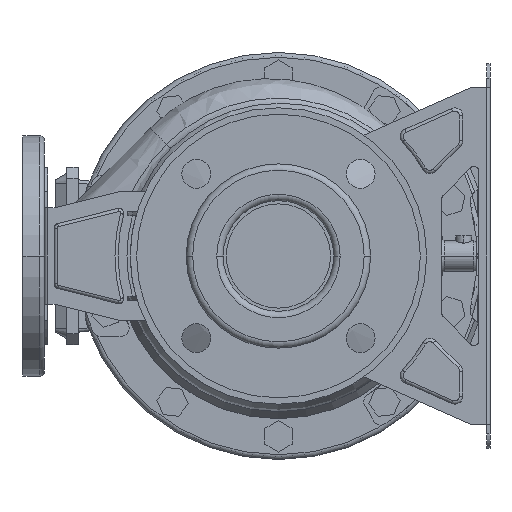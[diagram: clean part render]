
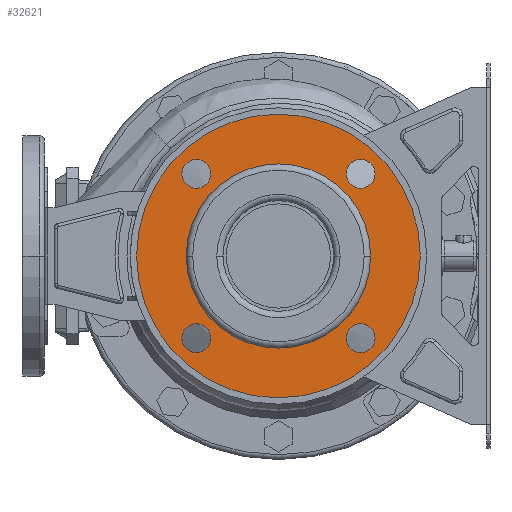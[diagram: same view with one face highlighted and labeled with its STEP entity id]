
A CAD part, front view. The second image highlights one B-rep face of the part: STEP entity #32621.
In plain terms, the highlighted planar face has unit normal (0, -1, 0) as drawn and (-1, 0, 0) by its records, which use the part's own axes.
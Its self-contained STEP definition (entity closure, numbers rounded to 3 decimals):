
#31954=CARTESIAN_POINT('',(12.,0.,0.));
#31955=DIRECTION('',(-1.,0.,0.));
#31956=DIRECTION('',(0.,1.,0.));
#31957=AXIS2_PLACEMENT_3D('',#31954,#31955,#31956);
#31962=CARTESIAN_POINT('',(12.,0.,0.));
#31963=DIRECTION('',(1.,0.,0.));
#31964=DIRECTION('',(0.,1.,0.));
#31965=AXIS2_PLACEMENT_3D('',#31962,#31963,#31964);
#31970=CARTESIAN_POINT('',(12.,-51.265,51.265));
#31971=DIRECTION('',(1.,0.,0.));
#31972=DIRECTION('',(0.,1.,0.));
#31973=AXIS2_PLACEMENT_3D('',#31970,#31971,#31972);
#31978=CARTESIAN_POINT('',(12.,-51.265,51.265));
#31979=DIRECTION('',(1.,0.,0.));
#31980=DIRECTION('',(0.,-1.,0.));
#31981=AXIS2_PLACEMENT_3D('',#31978,#31979,#31980);
#31986=CARTESIAN_POINT('',(12.,-51.265,-51.265));
#31987=DIRECTION('',(1.,0.,0.));
#31988=DIRECTION('',(0.,0.,1.));
#31989=AXIS2_PLACEMENT_3D('',#31986,#31987,#31988);
#31994=CARTESIAN_POINT('',(12.,-51.265,-51.265));
#31995=DIRECTION('',(1.,0.,0.));
#31996=DIRECTION('',(0.,0.,-1.));
#31997=AXIS2_PLACEMENT_3D('',#31994,#31995,#31996);
#32002=CARTESIAN_POINT('',(12.,51.265,-51.265));
#32003=DIRECTION('',(1.,0.,0.));
#32004=DIRECTION('',(0.,-1.,0.));
#32005=AXIS2_PLACEMENT_3D('',#32002,#32003,#32004);
#32010=CARTESIAN_POINT('',(12.,51.265,-51.265));
#32011=DIRECTION('',(1.,0.,0.));
#32012=DIRECTION('',(0.,1.,0.));
#32013=AXIS2_PLACEMENT_3D('',#32010,#32011,#32012);
#32018=CARTESIAN_POINT('',(12.,51.265,51.265));
#32019=DIRECTION('',(1.,0.,0.));
#32020=DIRECTION('',(0.,0.,-1.));
#32021=AXIS2_PLACEMENT_3D('',#32018,#32019,#32020);
#32026=CARTESIAN_POINT('',(12.,51.265,51.265));
#32027=DIRECTION('',(1.,0.,0.));
#32028=DIRECTION('',(0.,0.,1.));
#32029=AXIS2_PLACEMENT_3D('',#32026,#32027,#32028);
#32034=CARTESIAN_POINT('',(12.,0.,0.));
#32035=DIRECTION('',(1.,0.,0.));
#32036=DIRECTION('',(0.,1.,0.));
#32037=AXIS2_PLACEMENT_3D('',#32034,#32035,#32036);
#32056=CARTESIAN_POINT('',(12.,0.,0.));
#32057=DIRECTION('',(-1.,0.,0.));
#32058=DIRECTION('',(0.,1.,0.));
#32059=AXIS2_PLACEMENT_3D('',#32056,#32057,#32058);
#32221=CARTESIAN_POINT('',(12.,88.5,0.));
#32223=VERTEX_POINT('',#32221);
#32224=CARTESIAN_POINT('',(12.,57.5,0.));
#32226=VERTEX_POINT('',#32224);
#32253=CARTESIAN_POINT('',(12.,-88.5,0.));
#32255=VERTEX_POINT('',#32253);
#32256=CARTESIAN_POINT('',(12.,-57.5,0.));
#32258=VERTEX_POINT('',#32256);
#32268=CARTESIAN_POINT('',(12.,-42.265,51.265));
#32269=CARTESIAN_POINT('',(12.,-60.265,51.265));
#32270=VERTEX_POINT('',#32268);
#32271=VERTEX_POINT('',#32269);
#32276=CARTESIAN_POINT('',(12.,-51.265,-42.265));
#32277=CARTESIAN_POINT('',(12.,-51.265,-60.265));
#32278=VERTEX_POINT('',#32276);
#32279=VERTEX_POINT('',#32277);
#32284=CARTESIAN_POINT('',(12.,42.265,-51.265));
#32285=CARTESIAN_POINT('',(12.,60.265,-51.265));
#32286=VERTEX_POINT('',#32284);
#32287=VERTEX_POINT('',#32285);
#32292=CARTESIAN_POINT('',(12.,51.265,42.265));
#32293=CARTESIAN_POINT('',(12.,51.265,60.265));
#32294=VERTEX_POINT('',#32292);
#32295=VERTEX_POINT('',#32293);
#32582=CARTESIAN_POINT('',(12.,0.,0.));
#32583=DIRECTION('',(1.,0.,0.));
#32584=DIRECTION('',(0.,-1.,0.));
#32585=AXIS2_PLACEMENT_3D('',#32582,#32583,#32584);
#32586=PLANE('',#32585);
#32587=ORIENTED_EDGE('',*,*,#32575,.F.);
#32588=ORIENTED_EDGE('',*,*,#32564,.T.);
#32589=EDGE_LOOP('',(#32587,#32588));
#32590=FACE_OUTER_BOUND('',#32589,.F.);
#32592=ORIENTED_EDGE('',*,*,#32591,.F.);
#32594=ORIENTED_EDGE('',*,*,#32593,.T.);
#32595=EDGE_LOOP('',(#32592,#32594));
#32596=FACE_BOUND('',#32595,.F.);
#32598=ORIENTED_EDGE('',*,*,#32597,.F.);
#32600=ORIENTED_EDGE('',*,*,#32599,.F.);
#32601=EDGE_LOOP('',(#32598,#32600));
#32602=FACE_BOUND('',#32601,.F.);
#32604=ORIENTED_EDGE('',*,*,#32603,.F.);
#32606=ORIENTED_EDGE('',*,*,#32605,.F.);
#32607=EDGE_LOOP('',(#32604,#32606));
#32608=FACE_BOUND('',#32607,.F.);
#32610=ORIENTED_EDGE('',*,*,#32609,.F.);
#32612=ORIENTED_EDGE('',*,*,#32611,.F.);
#32613=EDGE_LOOP('',(#32610,#32612));
#32614=FACE_BOUND('',#32613,.F.);
#32616=ORIENTED_EDGE('',*,*,#32615,.F.);
#32618=ORIENTED_EDGE('',*,*,#32617,.F.);
#32619=EDGE_LOOP('',(#32616,#32618));
#32620=FACE_BOUND('',#32619,.F.);
#31958=CIRCLE('',#31957,88.5);
#31966=CIRCLE('',#31965,88.5);
#31974=CIRCLE('',#31973,9.);
#31982=CIRCLE('',#31981,9.);
#31990=CIRCLE('',#31989,9.);
#31998=CIRCLE('',#31997,9.);
#32006=CIRCLE('',#32005,9.);
#32014=CIRCLE('',#32013,9.);
#32022=CIRCLE('',#32021,9.);
#32030=CIRCLE('',#32029,9.);
#32038=CIRCLE('',#32037,57.5);
#32060=CIRCLE('',#32059,57.5);
#32564=EDGE_CURVE('',#32223,#32255,#31966,.T.);
#32575=EDGE_CURVE('',#32223,#32255,#31958,.T.);
#32591=EDGE_CURVE('',#32226,#32258,#32038,.T.);
#32593=EDGE_CURVE('',#32226,#32258,#32060,.T.);
#32597=EDGE_CURVE('',#32270,#32271,#31974,.T.);
#32599=EDGE_CURVE('',#32271,#32270,#31982,.T.);
#32603=EDGE_CURVE('',#32278,#32279,#31990,.T.);
#32605=EDGE_CURVE('',#32279,#32278,#31998,.T.);
#32609=EDGE_CURVE('',#32286,#32287,#32006,.T.);
#32611=EDGE_CURVE('',#32287,#32286,#32014,.T.);
#32615=EDGE_CURVE('',#32294,#32295,#32022,.T.);
#32617=EDGE_CURVE('',#32295,#32294,#32030,.T.);
#32621=ADVANCED_FACE('',(#32590,#32596,#32602,#32608,#32614,#32620),#32586,.F.);
